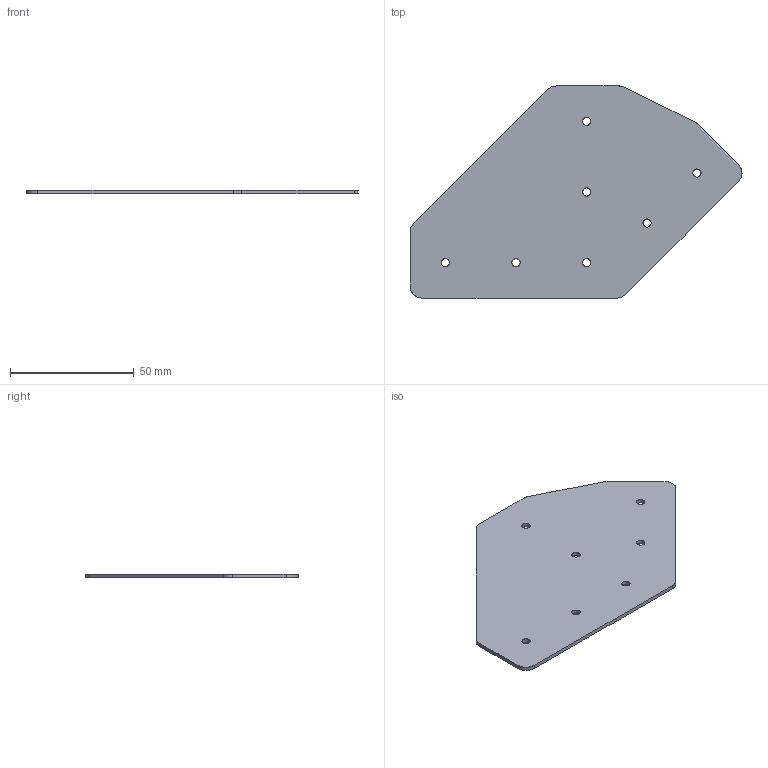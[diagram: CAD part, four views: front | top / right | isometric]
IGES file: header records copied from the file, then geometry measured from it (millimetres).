
Start section: SolidWorks IGES file using analytic representation for surfaces
Global section: file name: C:\Working\Gusset Convert\DRP-002-0009-01.igs; native system: SolidWorks 2010; preprocessor: SolidWorks 2010; author: mbush2; date: 100624.090201; units: inch
Bounding box: 134.23 x 85.72 x 1.59 mm (x, y, z)
Surface area: 16602.8 mm2 (no closed solid volume)
Topology: 0 solids, 0 shells, 30 faces, 638 edges, 638 vertices
Faces by surface type: revolution 21, bspline 9
